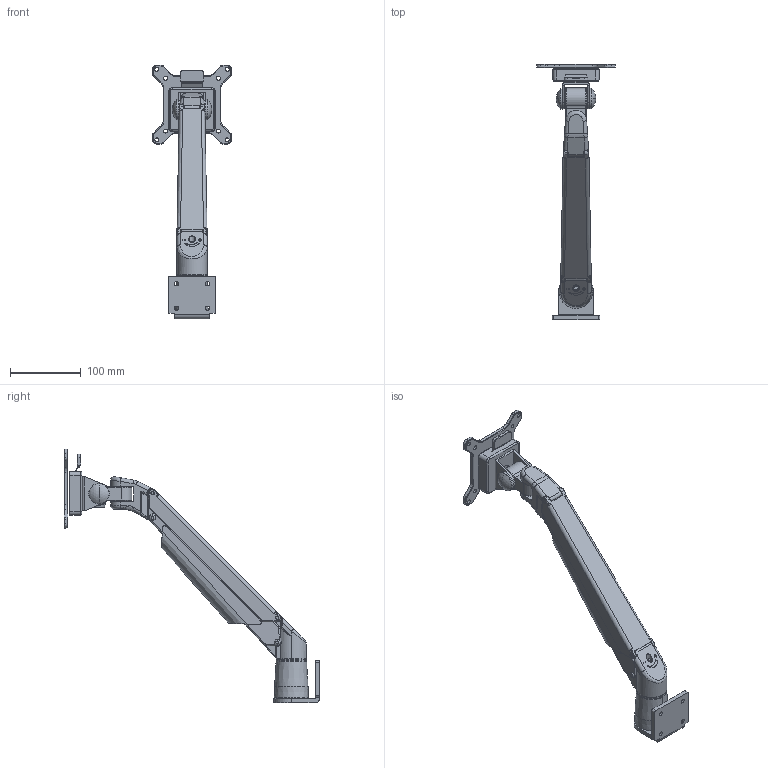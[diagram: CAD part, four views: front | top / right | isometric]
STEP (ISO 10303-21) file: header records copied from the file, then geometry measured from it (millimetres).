
FILE_DESCRIPTION (( 'STEP AP203' ), '1' );
FILE_NAME ('BS103.STEP', '2018-05-09T05:36:00', ( '' ), ( '' ), 'SwSTEP 2.0', 'SolidWorks 2014', '' );
FILE_SCHEMA (( 'CONFIG_CONTROL_DESIGN' ));
Length unit declared in the file: millimetre
Products named in the file (1): BS103
Bounding box: 112 x 361.76 x 359.9 mm (x, y, z)
Surface area: 216526.3 mm2 (no closed solid volume)
Topology: 0 solids, 29 shells, 979 faces, 2411 edges, 1481 vertices
Faces by surface type: cylinder 333, plane 246, bspline 197, torus 104, cone 79, sphere 20
Entity records: 49099 total; most frequent: CARTESIAN_POINT 28539, ORIENTED_EDGE 4777, DIRECTION 3540, EDGE_CURVE 2390, VERTEX_POINT 1478, AXIS2_PLACEMENT_3D 1407, EDGE_LOOP 1033, ADVANCED_FACE 979
